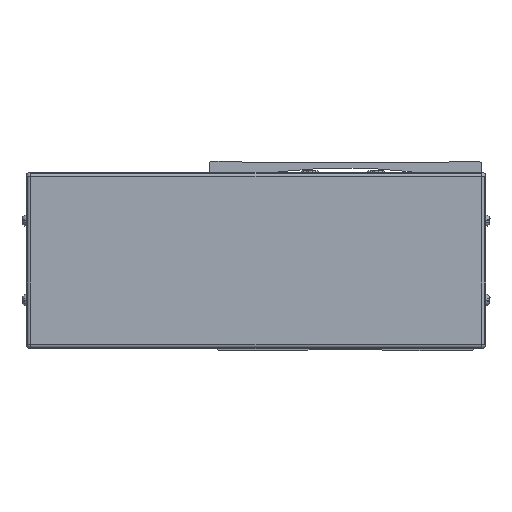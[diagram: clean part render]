
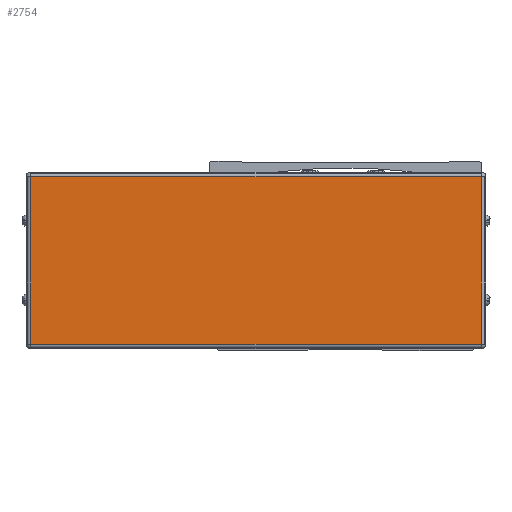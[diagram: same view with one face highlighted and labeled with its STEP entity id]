
A CAD part, front view. The second image highlights one B-rep face of the part: STEP entity #2754.
In plain terms, the highlighted planar face has unit normal (0, -1, 0).
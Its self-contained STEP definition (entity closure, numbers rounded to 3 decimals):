
#2754=ADVANCED_FACE('',(#6957),#6958,.F.);
#6957=FACE_OUTER_BOUND('',#13599,.T.);
#6958=PLANE('',#13600);
#13599=EDGE_LOOP('',(#22441,#22442,#22443,#22444));
#13600=AXIS2_PLACEMENT_3D('',#22445,#22446,#22447);
#22441=ORIENTED_EDGE('',*,*,#38298,.T.);
#22442=ORIENTED_EDGE('',*,*,#38299,.T.);
#22443=ORIENTED_EDGE('',*,*,#38300,.T.);
#22444=ORIENTED_EDGE('',*,*,#38301,.T.);
#22445=CARTESIAN_POINT('',(-340.5,-38.778,-8.));
#22446=DIRECTION('',(0.,1.0,0.));
#22447=DIRECTION('',(-1.0,0.,0.));
#38298=EDGE_CURVE('',#46715,#46716,#46717,.T.);
#38299=EDGE_CURVE('',#46716,#46718,#46719,.T.);
#38300=EDGE_CURVE('',#46718,#43474,#46720,.T.);
#38301=EDGE_CURVE('',#43474,#46715,#46721,.T.);
#43474=VERTEX_POINT('',#53703);
#46715=VERTEX_POINT('',#58523);
#46716=VERTEX_POINT('',#58524);
#46717=LINE('',#58525,#58526);
#46718=VERTEX_POINT('',#58527);
#46719=LINE('',#58528,#58529);
#46720=LINE('',#58530,#58531);
#46721=LINE('',#58532,#58533);
#53703=CARTESIAN_POINT('',(-238.3,-38.778,30.));
#58523=CARTESIAN_POINT('',(-442.7,-38.778,30.));
#58524=CARTESIAN_POINT('',(-442.7,-38.778,-46.));
#58525=CARTESIAN_POINT('',(-442.7,-38.778,-8.));
#58526=VECTOR('',#70127,10.0);
#58527=CARTESIAN_POINT('',(-238.3,-38.778,-46.));
#58528=CARTESIAN_POINT('',(-340.5,-38.778,-46.));
#58529=VECTOR('',#70128,10.0);
#58530=CARTESIAN_POINT('',(-238.3,-38.778,-8.));
#58531=VECTOR('',#70129,10.0);
#58532=CARTESIAN_POINT('',(-340.5,-38.778,30.));
#58533=VECTOR('',#70130,10.0);
#70127=DIRECTION('',(0.0,0.,-1.0));
#70128=DIRECTION('',(1.0,0.,0.));
#70129=DIRECTION('',(0.0,0.,1.0));
#70130=DIRECTION('',(-1.0,0.,0.));
